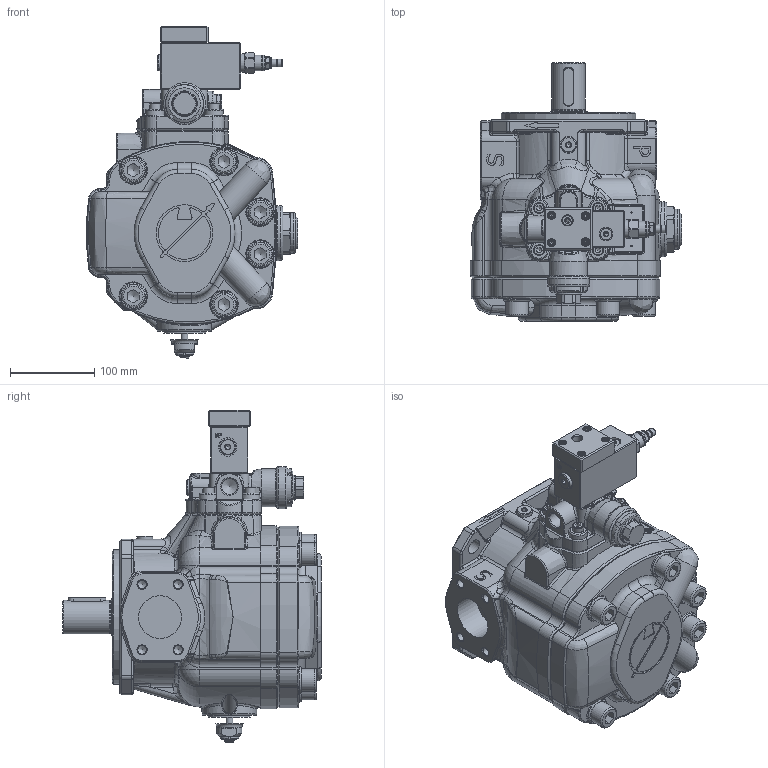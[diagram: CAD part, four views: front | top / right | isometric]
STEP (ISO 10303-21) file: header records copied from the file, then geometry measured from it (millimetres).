
FILE_DESCRIPTION(/* description */ (''),/* implementation_level */ '2;1');
FILE_NAME(/* name */ 'W:\Tecnico\Archivio\Berarma\Dimensioni Pompe\3D Export\Montaggio 3D semplificato\PLP-PHP 3\PHP 3 PCS002.stp',/* time_stamp */ '2018-10-10T08:36:41+02:00',/* author */ ('marcop'),/* organization */ (''),/* preprocessor_version */ 'ST-DEVELOPER v17',/* originating_system */ 'Autodesk Inventor 2018',/* authorisation */ '');
FILE_SCHEMA (('AUTOMOTIVE_DESIGN { 1 0 10303 214 3 1 1 }'));
Products named in the file (1): PLP-PHP 3_Shrinkwrap_1
Bounding box: 251.18 x 308 x 395.1 mm (x, y, z)
Volume: 7081684 mm3; surface area: 559869.2 mm2
Topology: 2 solids, 2 shells, 2255 faces, 5725 edges, 3531 vertices
Faces by surface type: plane 796, cylinder 509, bspline 459, torus 232, cone 215, sphere 44
Full cylindrical faces by diameter (mm): 1.7 x4, 3 x2, 3.15 x1, 4 x2, 6 x2, 6.5 x1, 7.2 x1, 7.671 x2, 8 x1, 8.376 x4, 8.5 x4, 9 x4, 9.347 x2, 9.5 x1, 10.106 x4, 11.445 x2, 12 x5, 13 x4, 13.487 x1, 13.5 x1, 13.767 x2, 14 x3, 14.63 x1, 15.5 x1, 16 x2, 17.399 x1, 17.5 x1, 17.78 x1, 18 x4, 18.631 x1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
Entity records: 84807 total; most frequent: CARTESIAN_POINT 30929, ORIENTED_EDGE 11286, DIRECTION 10173, EDGE_CURVE 5643, AXIS2_PLACEMENT_3D 3964, VERTEX_POINT 3531, EDGE_LOOP 2404, STYLED_ITEM 2257
